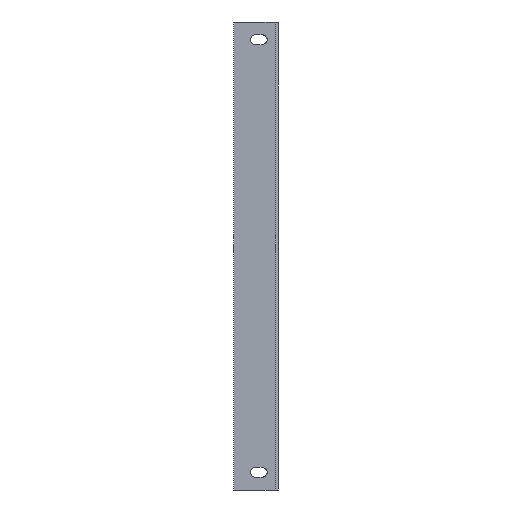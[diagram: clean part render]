
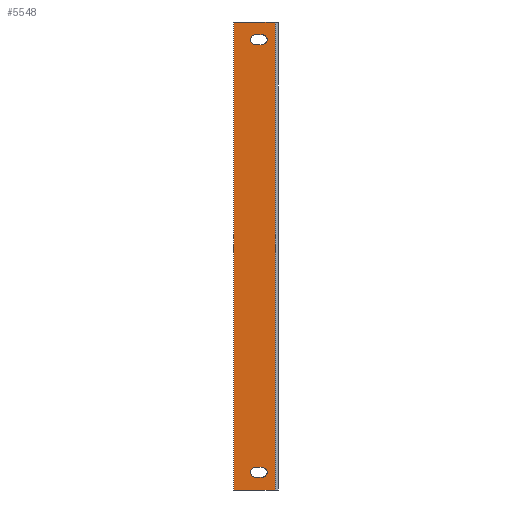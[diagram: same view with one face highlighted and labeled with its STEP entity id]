
A CAD part, front view. The second image highlights one B-rep face of the part: STEP entity #5548.
In plain terms, the highlighted planar face has unit normal (0, -1, 0).
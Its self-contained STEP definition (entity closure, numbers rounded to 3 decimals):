
#349=LINE('',#8248,#1005);
#352=LINE('',#8257,#1008);
#356=LINE('',#8269,#1012);
#358=LINE('',#8273,#1014);
#363=LINE('',#8290,#1019);
#364=LINE('',#8294,#1020);
#365=LINE('',#8295,#1021);
#366=LINE('',#8296,#1022);
#1005=VECTOR('',#6433,1000.);
#1008=VECTOR('',#6444,1000.);
#1012=VECTOR('',#6454,1000.);
#1014=VECTOR('',#6458,1000.);
#1019=VECTOR('',#6471,1000.);
#1020=VECTOR('',#6474,1000.);
#1021=VECTOR('',#6475,1000.);
#1022=VECTOR('',#6476,1000.);
#1761=ORIENTED_EDGE('',*,*,#3356,.T.);
#1762=ORIENTED_EDGE('',*,*,#3359,.T.);
#1763=ORIENTED_EDGE('',*,*,#3362,.T.);
#1764=ORIENTED_EDGE('',*,*,#3364,.T.);
#1765=ORIENTED_EDGE('',*,*,#3379,.F.);
#1766=ORIENTED_EDGE('',*,*,#3380,.F.);
#1767=ORIENTED_EDGE('',*,*,#3381,.F.);
#1768=ORIENTED_EDGE('',*,*,#3382,.F.);
#1769=ORIENTED_EDGE('',*,*,#3370,.T.);
#1770=ORIENTED_EDGE('',*,*,#3383,.T.);
#1771=ORIENTED_EDGE('',*,*,#3372,.T.);
#1772=ORIENTED_EDGE('',*,*,#3384,.T.);
#3356=EDGE_CURVE('',#4166,#4168,#4474,.T.);
#3359=EDGE_CURVE('',#4168,#4170,#349,.T.);
#3362=EDGE_CURVE('',#4170,#4172,#4476,.T.);
#3364=EDGE_CURVE('',#4172,#4166,#352,.T.);
#3370=EDGE_CURVE('',#4178,#4177,#356,.T.);
#3372=EDGE_CURVE('',#4179,#4180,#358,.T.);
#3379=EDGE_CURVE('',#4185,#4186,#4481,.T.);
#3380=EDGE_CURVE('',#4187,#4185,#363,.T.);
#3381=EDGE_CURVE('',#4188,#4187,#4482,.T.);
#3382=EDGE_CURVE('',#4186,#4188,#364,.T.);
#3383=EDGE_CURVE('',#4177,#4179,#365,.T.);
#3384=EDGE_CURVE('',#4180,#4178,#366,.T.);
#4166=VERTEX_POINT('',#8237);
#4168=VERTEX_POINT('',#8241);
#4170=VERTEX_POINT('',#8247);
#4172=VERTEX_POINT('',#8253);
#4177=VERTEX_POINT('',#8268);
#4178=VERTEX_POINT('',#8270);
#4179=VERTEX_POINT('',#8274);
#4180=VERTEX_POINT('',#8275);
#4185=VERTEX_POINT('',#8288);
#4186=VERTEX_POINT('',#8289);
#4187=VERTEX_POINT('',#8291);
#4188=VERTEX_POINT('',#8293);
#4474=CIRCLE('',#5870,5.563);
#4476=CIRCLE('',#5874,5.563);
#4481=CIRCLE('',#5883,5.563);
#4482=CIRCLE('',#5884,5.563);
#4571=EDGE_LOOP('',(#1761,#1762,#1763,#1764));
#4572=EDGE_LOOP('',(#1765,#1766,#1767,#1768));
#4573=EDGE_LOOP('',(#1769,#1770,#1771,#1772));
#4963=FACE_BOUND('',#4571,.T.);
#4964=FACE_BOUND('',#4572,.T.);
#4965=FACE_BOUND('',#4573,.T.);
#5298=PLANE('',#5882);
#5548=ADVANCED_FACE('',(#4963,#4964,#4965),#5298,.T.);
#5870=AXIS2_PLACEMENT_3D('',#8242,#6427,#6428);
#5874=AXIS2_PLACEMENT_3D('',#8254,#6439,#6440);
#5882=AXIS2_PLACEMENT_3D('',#8286,#6467,#6468);
#5883=AXIS2_PLACEMENT_3D('',#8287,#6469,#6470);
#5884=AXIS2_PLACEMENT_3D('',#8292,#6472,#6473);
#6427=DIRECTION('',(0.,1.,0.));
#6428=DIRECTION('',(0.,0.,1.));
#6433=DIRECTION('',(-1.,0.,0.));
#6439=DIRECTION('',(0.,1.,0.));
#6440=DIRECTION('',(0.,0.,-1.));
#6444=DIRECTION('',(1.,0.,0.));
#6454=DIRECTION('',(1.,0.,0.));
#6458=DIRECTION('',(-1.,0.,0.));
#6467=DIRECTION('',(0.,-1.,0.));
#6468=DIRECTION('',(0.,0.,-1.));
#6469=DIRECTION('',(0.,-1.,0.));
#6470=DIRECTION('',(0.,0.,-1.));
#6471=DIRECTION('',(1.,0.,0.));
#6472=DIRECTION('',(0.,-1.,0.));
#6473=DIRECTION('',(0.,0.,1.));
#6474=DIRECTION('',(-1.,0.,0.));
#6475=DIRECTION('',(0.,0.,1.));
#6476=DIRECTION('',(0.,0.,-1.));
#8237=CARTESIAN_POINT('',(7.137,0.,252.425));
#8241=CARTESIAN_POINT('',(7.137,0.,241.3));
#8242=CARTESIAN_POINT('',(7.137,0.,246.863));
#8247=CARTESIAN_POINT('',(-0.787,0.,241.3));
#8248=CARTESIAN_POINT('',(-0.787,0.,241.3));
#8253=CARTESIAN_POINT('',(-0.787,0.,252.425));
#8254=CARTESIAN_POINT('',(-0.787,0.,246.863));
#8257=CARTESIAN_POINT('',(-0.787,0.,252.425));
#8268=CARTESIAN_POINT('',(21.768,0.,-267.081));
#8269=CARTESIAN_POINT('',(-25.4,0.,-267.081));
#8270=CARTESIAN_POINT('',(-25.4,0.,-267.081));
#8273=CARTESIAN_POINT('',(25.4,0.,267.081));
#8274=CARTESIAN_POINT('',(21.768,0.,267.081));
#8275=CARTESIAN_POINT('',(-25.4,0.,267.081));
#8286=CARTESIAN_POINT('',(-25.4,0.,-267.081));
#8287=CARTESIAN_POINT('',(7.137,0.,-246.863));
#8288=CARTESIAN_POINT('',(7.137,0.,-252.425));
#8289=CARTESIAN_POINT('',(7.137,0.,-241.3));
#8290=CARTESIAN_POINT('',(-0.787,0.,-252.425));
#8291=CARTESIAN_POINT('',(-0.787,0.,-252.425));
#8292=CARTESIAN_POINT('',(-0.787,0.,-246.863));
#8293=CARTESIAN_POINT('',(-0.787,0.,-241.3));
#8294=CARTESIAN_POINT('',(-0.787,0.,-241.3));
#8295=CARTESIAN_POINT('',(21.768,0.,-267.081));
#8296=CARTESIAN_POINT('',(-25.4,0.,267.081));
